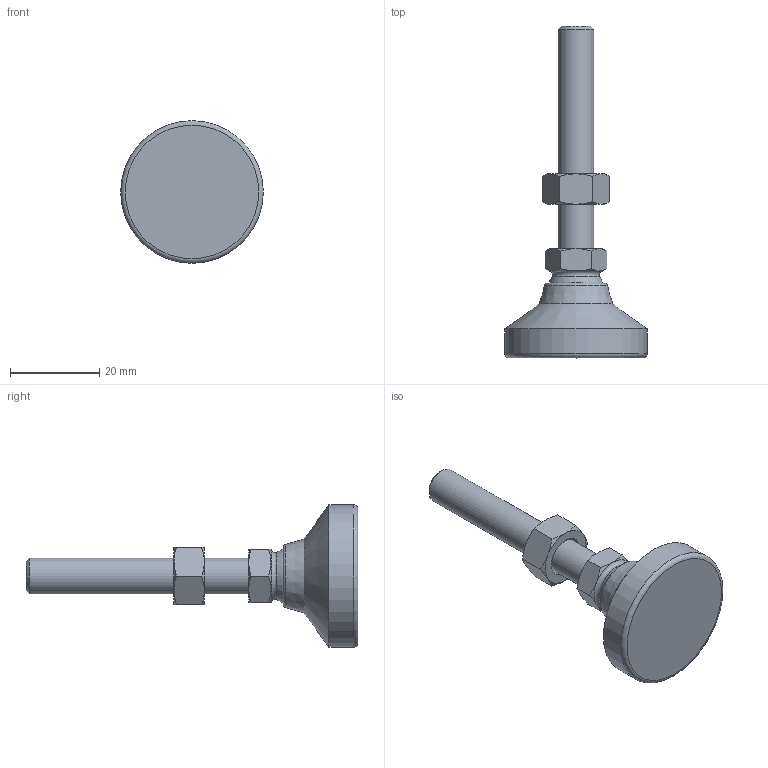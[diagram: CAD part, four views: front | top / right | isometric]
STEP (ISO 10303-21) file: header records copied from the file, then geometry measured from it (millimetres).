
FILE_DESCRIPTION( ( 'STEP AP214' ), ' ' );
FILE_NAME( 'O:/ganter_2015/teil_2/2_5/gn343_2/gn343_2_kse/Levelling foot with threaded stud GN 343.2-32-M8-50-KSE-(0).stp', '2015-10-26T09:15:26', ( '' ), ( '' ), ' ', 'PARTsolutions', ' ' );
FILE_SCHEMA( ( 'AUTOMOTIVE_DESIGN { 1 0 10303 214 1 1 1 1 }' ) );
Length unit declared in the file: millimetre
Products named in the file (4): Levelling foot with threaded stud GN 343.2-32-M8-50-KSE-(0); _Levelling foot with threaded stud GN 343.2-32-M8-50-KSE-(0)_foot; _Levelling foot with threaded stud GN 343.2-32-M8-50-KSE-(0)_screw; _Levelling foot with threaded stud GN 343.2-32-M8-50-KSE-(0)_nut
Assembly tree (3 placements, depth 2):
  Levelling foot with threaded stud GN 343.2-32-M8-50-KSE-(0)
    _Levelling foot with threaded stud GN 343.2-32-M8-50-KSE-(0)_foot
    _Levelling foot with threaded stud GN 343.2-32-M8-50-KSE-(0)_screw
    _Levelling foot with threaded stud GN 343.2-32-M8-50-KSE-(0)_nut
Bounding box: 32 x 74.5 x 32 mm (x, y, z)
Volume: 12859.3 mm3; surface area: 5363.8 mm2
Topology: 3 solids, 3 shells, 50 faces, 107 edges, 63 vertices
Faces by surface type: cone 24, plane 18, torus 3, cylinder 3, sphere 2
Full cylindrical faces by diameter (mm): 6.647 x1, 8 x1, 32 x1
Entity records: 1858 total; most frequent: CARTESIAN_POINT 452, DIRECTION 188, ORIENTED_EDGE 176, AXIS2_PLACEMENT_3D 88, EDGE_CURVE 88, EDGE_LOOP 66, VERTEX_POINT 60, FACE_OUTER_BOUND 56
